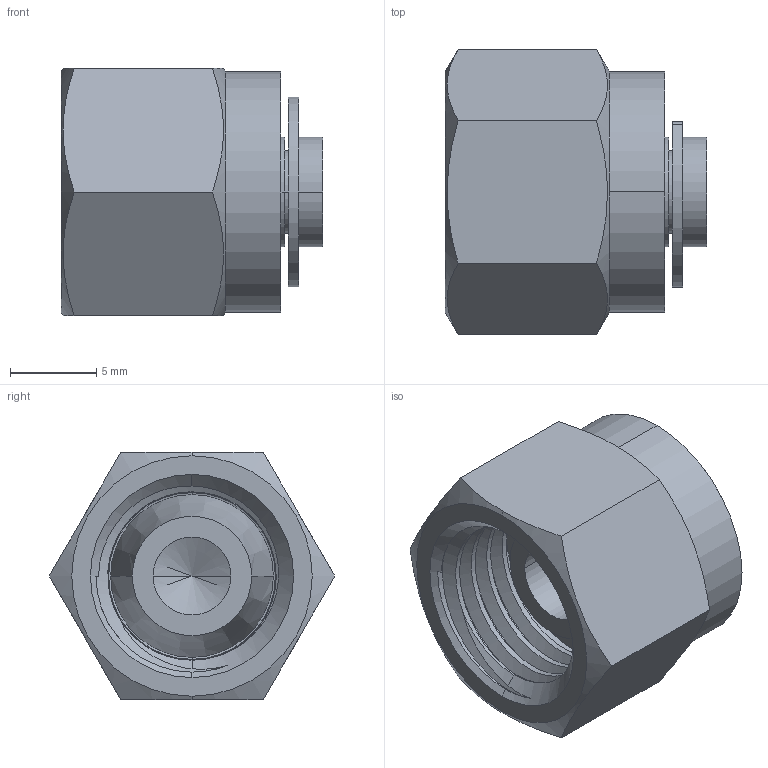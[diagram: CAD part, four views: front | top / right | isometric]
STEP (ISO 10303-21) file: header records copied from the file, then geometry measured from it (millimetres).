
FILE_DESCRIPTION (( 'STEP AP203' ), '1' );
FILE_NAME ('DBA04 SS.STEP', '2009-09-08T04:41:47', ( ' ' ), ( '' ), 'SwSTEP 2.0', 'SolidWorks 2008', '' );
FILE_SCHEMA (( 'CONFIG_CONTROL_DESIGN' ));
Length unit declared in the file: millimetre
Products named in the file (1): DBA04 SS
Bounding box: 15.13 x 16.5 x 14.29 mm (x, y, z)
Volume: 1685.4 mm3; surface area: 1712.3 mm2
Topology: 2 solids, 2 shells, 77 faces, 195 edges, 126 vertices
Faces by surface type: cylinder 38, plane 23, cone 13, bspline 3
Entity records: 3106 total; most frequent: CARTESIAN_POINT 1242, ORIENTED_EDGE 386, DIRECTION 365, EDGE_CURVE 193, AXIS2_PLACEMENT_3D 143, VERTEX_POINT 126, EDGE_LOOP 83, VECTOR 79
